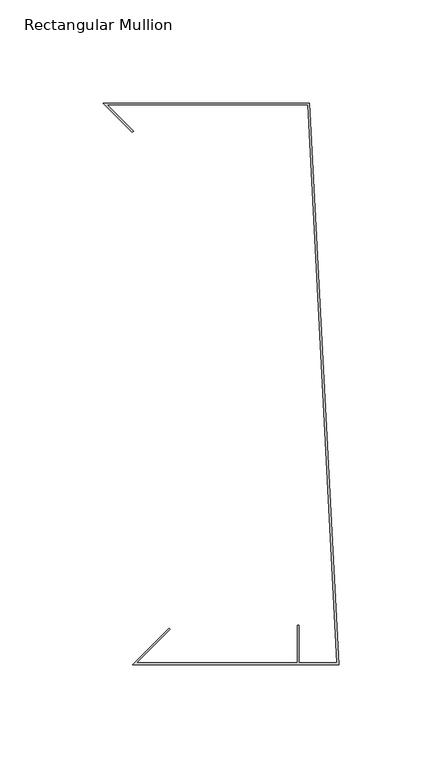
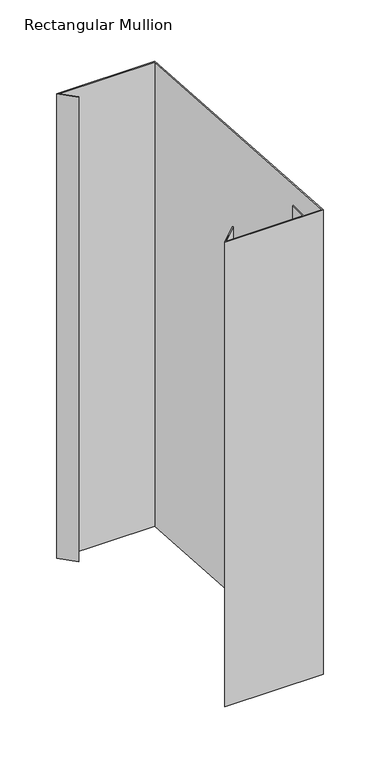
"""IFC4 building model written with IfcOpenShell, lengths in millimetres: member geometry, Rectangular Mullion : TI-V-03_01_Top parapet."""

import ifcopenshell
import ifcopenshell.guid

model = None  # the IFC model being written
_history = None  # IfcOwnerHistory: only IFC2X3 demands one
_inside = {}  # id of a spatial element -> (the spatial element, [elements in it])
_under = {}  # id of a project, library or spatial element -> (it, [spatial elements below it])
_declared = {}  # id of a project -> (the project, [libraries it declares])
_typed = {}  # id of a type object -> (the type object, [elements of that type])
_made_of = {}  # id of a material, layer set ... -> (it, [elements and type objects made of it])


def new_model(schema):
    """Start an empty IFC model of exactly this schema.

    Asked for "IFC4X3", IfcOpenShell would pick the latest addendum, in which some entities
    have other attributes; the version numbers below select the first issue.
    IFC2X3 requires an IfcOwnerHistory on every rooted entity: one is made here for all.
    """
    global model, _history
    if schema == "IFC4X3":
        model = ifcopenshell.file(schema_version=(4, 3, 0, 0))
    else:
        model = ifcopenshell.file(schema=schema)
    _inside.clear()
    _under.clear()
    _declared.clear()
    _typed.clear()
    _made_of.clear()
    _history = None
    if model.schema == "IFC2X3":
        org = make("IfcOrganization", Name="unknown")
        user = make(
            "IfcPersonAndOrganization",
            ThePerson=make("IfcPerson", FamilyName="unknown"),
            TheOrganization=org,
        )
        app = make(
            "IfcApplication",
            ApplicationDeveloper=org,
            Version="unknown",
            ApplicationFullName="unknown",
            ApplicationIdentifier="unknown",
        )
        _history = make(
            "IfcOwnerHistory",
            OwningUser=user,
            OwningApplication=app,
            ChangeAction="ADDED",
            CreationDate=0,
        )
    return model


def make(cls, **values):
    """One entity of the class cls with the attributes given. An attribute that is None is left unset."""
    return model.create_entity(
        cls, **{name: value for name, value in values.items() if value is not None}
    )


def rooted(cls, **values):
    """An entity with a GlobalId (a new one), such as an element, a storey or a relation."""
    return make(cls, GlobalId=ifcopenshell.guid.new(), OwnerHistory=_history, **values)


def si_unit(unit_type, name, prefix=None):
    """IfcSIUnit, for example si_unit("LENGTHUNIT", "METRE", prefix="MILLI")."""
    return make("IfcSIUnit", UnitType=unit_type, Prefix=prefix, Name=name)


def assignment(units):
    """IfcUnitAssignment: the units of a project."""
    return None if units is None else make("IfcUnitAssignment", Units=units)


def point(xyz):
    """IfcCartesianPoint."""
    return None if xyz is None else make("IfcCartesianPoint", Coordinates=xyz)


def direction(xyz):
    """IfcDirection."""
    return None if xyz is None else make("IfcDirection", DirectionRatios=xyz)


def frame(location, z_axis=None, x_axis=None):
    """IfcAxis2Placement3D, a coordinate frame: its origin and axes. An axis left out is left unset."""
    return make(
        "IfcAxis2Placement3D",
        Location=point(location),
        Axis=direction(z_axis),
        RefDirection=direction(x_axis),
    )


def origin():
    """The frame at (0, 0, 0) with its axes left unset."""
    return frame((0.0, 0.0, 0.0))


def place(relative_to, where):
    """IfcLocalPlacement: puts the frame where relative to a parent placement (None: the world)."""
    return make(
        "IfcLocalPlacement", PlacementRelTo=relative_to, RelativePlacement=where
    )


def context(
    kind, dimensions, precision=None, world=None, true_north=None, identifier=None
):
    """IfcGeometricRepresentationContext, for example the 3D "Model" context."""
    return make(
        "IfcGeometricRepresentationContext",
        ContextIdentifier=identifier,
        ContextType=kind,
        CoordinateSpaceDimension=dimensions,
        Precision=precision,
        WorldCoordinateSystem=world,
        TrueNorth=true_north,
    )


def project(units=None, contexts=None):
    """IfcProject with its units and contexts."""
    return rooted(
        "IfcProject",
        Name="project",
        RepresentationContexts=contexts,
        UnitsInContext=assignment(units),
    )


def spatial(cls, under=None, at=None, **own):
    """A site, building, storey or space (cls), placed at a placement, below another one or the project."""
    s = rooted(cls, ObjectPlacement=at, **own)
    if under is not None:
        _under.setdefault(under.id(), (under, []))[1].append(s)
    return s


def polyline(points):
    """IfcPolyline through the points."""
    return make("IfcPolyline", Points=[point(p) for p in points])


def outline(outer, holes=None, kind="AREA"):
    """IfcArbitraryClosedProfileDef: a profile drawn as a closed curve; with holes, ...WithVoids."""
    if holes is None:
        return make("IfcArbitraryClosedProfileDef", ProfileType=kind, OuterCurve=outer)
    return make(
        "IfcArbitraryProfileDefWithVoids",
        ProfileType=kind,
        OuterCurve=outer,
        InnerCurves=holes,
    )


def extrude(swept, where, along, depth):
    """IfcExtrudedAreaSolid: the profile swept, set in the frame where, extruded along a direction by depth."""
    return make(
        "IfcExtrudedAreaSolid",
        SweptArea=swept,
        Position=where,
        ExtrudedDirection=direction(along),
        Depth=depth,
    )


def shape(context_of_items, identifier, shape_type, items):
    """IfcShapeRepresentation: the items that make up one representation, for example the "Body"."""
    return make(
        "IfcShapeRepresentation",
        ContextOfItems=context_of_items,
        RepresentationIdentifier=identifier,
        RepresentationType=shape_type,
        Items=items,
    )


def source(mapping_origin, context_of_items, identifier, shape_type, items):
    """IfcRepresentationMap: a shape defined once, which mapped items show again and again."""
    return make(
        "IfcRepresentationMap",
        MappingOrigin=mapping_origin,
        MappedRepresentation=shape(context_of_items, identifier, shape_type, items),
    )


def transform(
    local_origin,
    x_axis=None,
    y_axis=None,
    z_axis=None,
    scale=None,
    scale2=None,
    scale3=None,
    uniform=True,
):
    """IfcCartesianTransformationOperator3D, or its non-uniform kind. x_axis, y_axis, z_axis: its Axis1, 2, 3."""
    if uniform:
        return make(
            "IfcCartesianTransformationOperator3D",
            Axis1=direction(x_axis),
            Axis2=direction(y_axis),
            LocalOrigin=point(local_origin),
            Scale=scale,
            Axis3=direction(z_axis),
        )
    return make(
        "IfcCartesianTransformationOperator3DnonUniform",
        Axis1=direction(x_axis),
        Axis2=direction(y_axis),
        LocalOrigin=point(local_origin),
        Scale=scale,
        Axis3=direction(z_axis),
        Scale2=scale2,
        Scale3=scale3,
    )


def mapped(mapping_source, mapping_target):
    """IfcMappedItem: shows the shape of a source again, moved by a transform."""
    return make(
        "IfcMappedItem", MappingSource=mapping_source, MappingTarget=mapping_target
    )


def made_of(thing, what):
    """Note that an element or type object is made of a material, layer set ...; save() writes the relation."""
    if what is not None:
        _made_of.setdefault(what.id(), (what, []))[1].append(thing)
    return thing


def element(
    cls,
    number,
    at=None,
    inside=None,
    cuts=None,
    type_object=None,
    material=None,
    context=None,
    identifier="Body",
    shape_type=None,
    held_by="IfcProductDefinitionShape",
    body=None,
    shapes=None,
    **own,
):
    """One element of the class cls, such as IfcWall. Its Tag is "e" and its number.

    at: its placement. inside: the storey or other place that contains it. cuts: it is an
    opening in that element (IfcRelVoidsElement). A single representation is given by context,
    identifier, shape_type and body (its items); several are given by shapes. held_by: the class
    of the entity that holds the representations. save() writes the other relations.
    """
    e = rooted(cls, Tag="e%d" % number, ObjectPlacement=at, **own)
    if body is not None:
        shapes = [shape(context, identifier, shape_type, body)]
    if shapes is not None:
        e.Representation = make(held_by, Representations=shapes)
    if inside is not None:
        _inside.setdefault(inside.id(), (inside, []))[1].append(e)
    if cuts is not None:
        rooted(
            "IfcRelVoidsElement", RelatingBuildingElement=cuts, RelatedOpeningElement=e
        )
    if type_object is not None:
        _typed.setdefault(type_object.id(), (type_object, []))[1].append(e)
    return made_of(e, material)


def aggregate(whole, parts):
    """IfcRelAggregates: a whole, such as a stair, and the parts it consists of."""
    return rooted("IfcRelAggregates", RelatingObject=whole, RelatedObjects=parts)


def save(model, path):
    """Write the relations noted so far, then the file.

    IfcRelAggregates (storeys below a building ...), IfcRelContainedInSpatialStructure (elements
    in a storey), IfcRelDefinesByType, IfcRelAssociatesMaterial and IfcRelDeclares: one each for
    every whole, place, type object, material and project.
    """
    for whole, parts in _under.values():
        aggregate(whole, parts)
    for where, things in _inside.values():
        rooted(
            "IfcRelContainedInSpatialStructure",
            RelatedElements=things,
            RelatingStructure=where,
        )
    for kind, things in _typed.values():
        rooted("IfcRelDefinesByType", RelatedObjects=things, RelatingType=kind)
    for what, things in _made_of.values():
        rooted("IfcRelAssociatesMaterial", RelatedObjects=things, RelatingMaterial=what)
    for by, libraries in _declared.values():
        rooted("IfcRelDeclares", RelatingContext=by, RelatedDefinitions=libraries)
    model.write(path)


def rectangular_mullion_df936c78(model_context):
    return source(origin(), model_context, "Body", "SweptSolid", [
        extrude(outline(polyline([(-100.0, -19.0), (-82.3223305, -1.3223305), (-81.756645, -1.8880159), (-98.0686292, -18.2), (-20.0, -18.2), (-20.0, 0.0), (-19.2, 0.0), (-19.2, -18.2), (-0.8430241, -18.2), (-15.0140876, 252.2), (-112.3235451, 252.2), (-99.5470949, 239.4235498), (-100.1127803, 238.8578644), (-114.254916, 253.0), (-14.254916, 253.0), (0.0, -19.0), (-100.0, -19.0)])), frame((0.0, 0.0, -500.0000003), z_axis=(0.0, 0.0, 1.0), x_axis=(1.0, 0.0, 0.0)), (0.0, 0.0, 1.0), 500.0000003),
    ])


if __name__ == "__main__":
    model = new_model("IFC4")
    model_context = context("Model", 3, world=origin())
    ifc_project = project(units=[si_unit("LENGTHUNIT", "METRE", prefix="MILLI")], contexts=[model_context])
    site = spatial("IfcSite", under=ifc_project)
    building = spatial("IfcBuilding", under=site)
    placement = place(None, origin())
    rectangular_mullion_shape = rectangular_mullion_df936c78(model_context)
    element("IfcMember", 1, ObjectType="Rectangular Mullion : TI-V-03_01_Top parapet", at=placement, inside=building, context=model_context, shape_type="MappedRepresentation", body=[
        mapped(rectangular_mullion_shape, transform((0.0, 0.0, 0.0), x_axis=(1.0, 0.0, 0.0), y_axis=(0.0, 1.0, 0.0), z_axis=(0.0, 0.0, 1.0))),
    ])
    save(model, "model.ifc")
